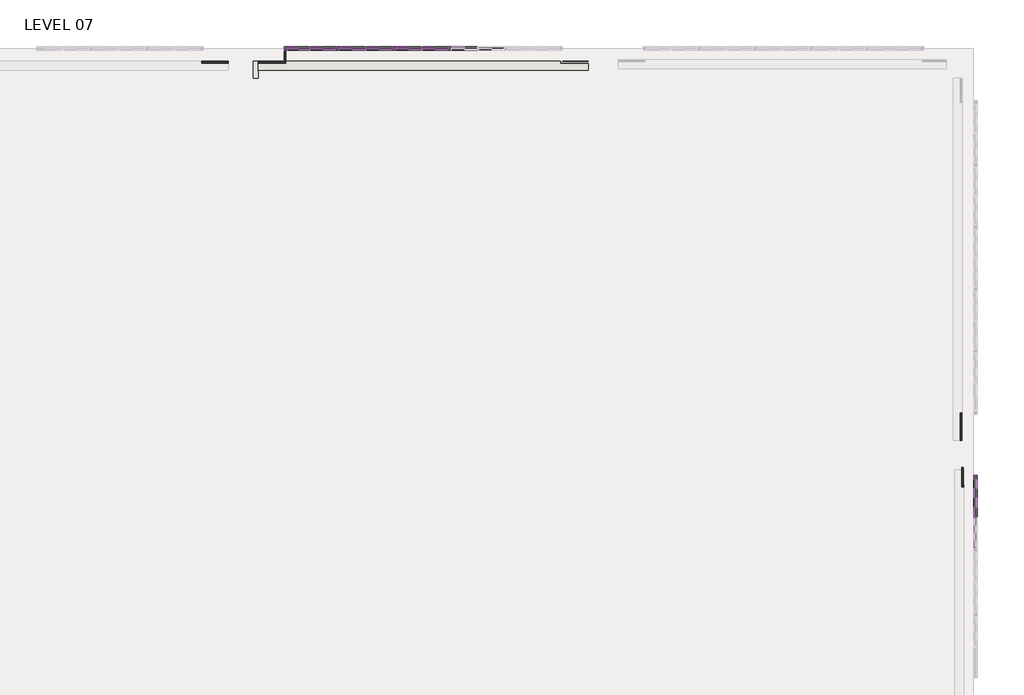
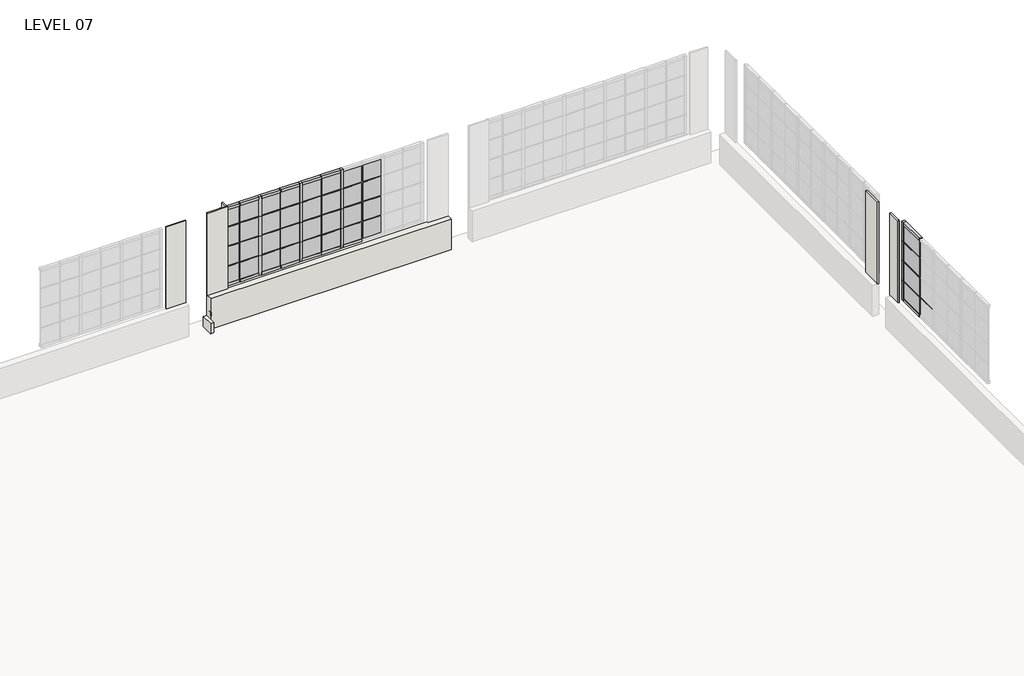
# One storey, part 12 of 15: 73 members, 36 plates, 8 walls.
"""IFC4 building model written with IfcOpenShell, lengths in millimetres."""

from ifc_helpers import new_model, si_unit, frame, origin, place, context, project, spatial, polyline, outline, extrude, faceted_brep, transform, mapped, element, save
from components import member_8b579164, member_7143316a, member_78bb2ef1, member_d9fe2114, member_2883aa03, member_58a7523c, member_9007e3de, member_17eb62f4, member_6e5aab5d, member_bacafba3, member_a6d649dc, system_panel_glazed_44697018, system_panel_glazed_bf1454fd, system_panel_glazed_c0b9dc67, system_panel_glazed_28fcd7fc, system_panel_glazed_604e821d, system_panel_glazed_28924fc1

model = new_model("IFC4")

# Units and contexts
model_context = context("Model", 3, world=origin())
ifc_project = project(units=[si_unit("LENGTHUNIT", "METRE", prefix="MILLI")], contexts=[model_context])

# Site, building, storey
site = spatial("IfcSite", under=ifc_project)
building = spatial("IfcBuilding", under=site)
storey = spatial("IfcBuildingStorey", under=building, Name="LEVEL 07", Elevation=20802.6)

# Members
placement = place(None, origin())
member_shape = member_8b579164(model_context)
element("IfcMember", 1, ObjectType="Rectangular Mullion : 1\" x 1\" - Butt Joint", at=placement, inside=storey, context=model_context, shape_type="MappedRepresentation", body=[
    mapped(member_shape, transform((-14064.4571519, -412.75, 23342.6), x_axis=(0.0, 0.0, 1.0), y_axis=(0.0, -1.0, 0.0), z_axis=(1.0, 0.0, 0.0))),
])
element("IfcMember", 2, ObjectType="Rectangular Mullion : 1\" x 1\" - Butt Joint", at=placement, inside=storey, context=model_context, shape_type="MappedRepresentation", body=[
    mapped(member_shape, transform((-14064.4571519, -412.75, 22758.4), x_axis=(0.0, 0.0, 1.0), y_axis=(0.0, -1.0, 0.0), z_axis=(1.0, 0.0, 0.0))),
])
element("IfcMember", 3, ObjectType="Rectangular Mullion : 1\" x 1\" - Butt Joint", at=placement, inside=storey, context=model_context, shape_type="MappedRepresentation", body=[
    mapped(member_shape, transform((-14064.4571519, -412.75, 22174.2), x_axis=(0.0, 0.0, 1.0), y_axis=(0.0, -1.0, 0.0), z_axis=(1.0, 0.0, 0.0))),
])
member_2_shape = member_7143316a(model_context)
element("IfcMember", 4, ObjectType="Rectangular Mullion : 1\" x 1\" - Butt Joint", at=placement, inside=storey, context=model_context, shape_type="MappedRepresentation", body=[
    mapped(member_2_shape, transform((-445.6849596, -9211.1863171, 23342.6), x_axis=(0.0, 0.0, 1.0), y_axis=(1.0, 0.0, 0.0), z_axis=(0.0, 1.0, 0.0))),
])
element("IfcMember", 5, ObjectType="Rectangular Mullion : 1\" x 1\" - Butt Joint", at=placement, inside=storey, context=model_context, shape_type="MappedRepresentation", body=[
    mapped(member_2_shape, transform((-445.6849596, -9211.1863171, 22758.4), x_axis=(0.0, 0.0, 1.0), y_axis=(1.0, 0.0, 0.0), z_axis=(0.0, 1.0, 0.0))),
])
element("IfcMember", 6, ObjectType="Rectangular Mullion : 1\" x 1\" - Butt Joint", at=placement, inside=storey, context=model_context, shape_type="MappedRepresentation", body=[
    mapped(member_2_shape, transform((-445.6849596, -9211.1863171, 22174.2), x_axis=(0.0, 0.0, 1.0), y_axis=(1.0, 0.0, 0.0), z_axis=(0.0, 1.0, 0.0))),
])
member_3_shape = member_78bb2ef1(model_context)
element("IfcMember", 7, ObjectType="Rectangular Mullion : 1\" x 1\" - Butt Joint", at=placement, inside=storey, context=model_context, shape_type="MappedRepresentation", body=[
    mapped(member_3_shape, transform((-445.6849596, -9999.1456956, 23342.6), x_axis=(0.0, 1.0, 0.0), y_axis=(1.0, 0.0, 0.0), z_axis=(0.0, 0.0, -1.0))),
])
element("IfcMember", 8, ObjectType="Rectangular Mullion : 1\" x 1\" - Butt Joint", at=placement, inside=storey, context=model_context, shape_type="MappedRepresentation", body=[
    mapped(member_3_shape, transform((-445.6849596, -9999.1456956, 22174.2), x_axis=(0.0, 1.0, 0.0), y_axis=(1.0, 0.0, 0.0), z_axis=(0.0, 0.0, -1.0))),
])
element("IfcMember", 9, ObjectType="Rectangular Mullion : 1\" x 1\" - Butt Joint", at=placement, inside=storey, context=model_context, shape_type="MappedRepresentation", body=[
    mapped(member_3_shape, transform((-445.6849596, -9999.1456956, 22758.4), x_axis=(0.0, 1.0, 0.0), y_axis=(1.0, 0.0, 0.0), z_axis=(0.0, 0.0, -1.0))),
])
element("IfcMember", 10, ObjectType="Rectangular Mullion : 1\" x 1\" - Butt Joint", at=placement, inside=storey, context=model_context, shape_type="MappedRepresentation", body=[
    mapped(member_3_shape, transform((-445.6849596, -9999.1456956, 21590.0), x_axis=(0.0, 1.0, 0.0), y_axis=(1.0, 0.0, 0.0), z_axis=(0.0, 0.0, -1.0))),
])
member_4_shape = member_d9fe2114(model_context)
element("IfcMember", 11, ObjectType="Rectangular Mullion : 1\" x 1\" - Butt Joint", at=placement, inside=storey, context=model_context, shape_type="MappedRepresentation", body=[
    mapped(member_4_shape, transform((-13515.8171519, -412.75, 23342.6), x_axis=(0.0, 0.0, 1.0), y_axis=(0.0, -1.0, 0.0), z_axis=(1.0, 0.0, 0.0))),
])
element("IfcMember", 12, ObjectType="Rectangular Mullion : 1\" x 1\" - Butt Joint", at=placement, inside=storey, context=model_context, shape_type="MappedRepresentation", body=[
    mapped(member_4_shape, transform((-12367.7371519, -412.75, 23342.6), x_axis=(0.0, 0.0, 1.0), y_axis=(0.0, -1.0, 0.0), z_axis=(1.0, 0.0, 0.0))),
])
element("IfcMember", 13, ObjectType="Rectangular Mullion : 1\" x 1\" - Butt Joint", at=placement, inside=storey, context=model_context, shape_type="MappedRepresentation", body=[
    mapped(member_4_shape, transform((-11219.6571519, -412.75, 23342.6), x_axis=(0.0, 0.0, 1.0), y_axis=(0.0, -1.0, 0.0), z_axis=(1.0, 0.0, 0.0))),
])
element("IfcMember", 14, ObjectType="Rectangular Mullion : 1\" x 1\" - Butt Joint", at=placement, inside=storey, context=model_context, shape_type="MappedRepresentation", body=[
    mapped(member_4_shape, transform((-12916.3771519, -412.75, 23342.6), x_axis=(0.0, 0.0, 1.0), y_axis=(0.0, -1.0, 0.0), z_axis=(1.0, 0.0, 0.0))),
])
element("IfcMember", 15, ObjectType="Rectangular Mullion : 1\" x 1\" - Butt Joint", at=placement, inside=storey, context=model_context, shape_type="MappedRepresentation", body=[
    mapped(member_4_shape, transform((-11768.2971519, -412.75, 23342.6), x_axis=(0.0, 0.0, 1.0), y_axis=(0.0, -1.0, 0.0), z_axis=(1.0, 0.0, 0.0))),
])
element("IfcMember", 16, ObjectType="Rectangular Mullion : 1\" x 1\" - Butt Joint", at=placement, inside=storey, context=model_context, shape_type="MappedRepresentation", body=[
    mapped(member_4_shape, transform((-13515.8171519, -412.75, 22758.4), x_axis=(0.0, 0.0, 1.0), y_axis=(0.0, -1.0, 0.0), z_axis=(1.0, 0.0, 0.0))),
])
element("IfcMember", 17, ObjectType="Rectangular Mullion : 1\" x 1\" - Butt Joint", at=placement, inside=storey, context=model_context, shape_type="MappedRepresentation", body=[
    mapped(member_4_shape, transform((-12367.7371519, -412.75, 22758.4), x_axis=(0.0, 0.0, 1.0), y_axis=(0.0, -1.0, 0.0), z_axis=(1.0, 0.0, 0.0))),
])
element("IfcMember", 18, ObjectType="Rectangular Mullion : 1\" x 1\" - Butt Joint", at=placement, inside=storey, context=model_context, shape_type="MappedRepresentation", body=[
    mapped(member_4_shape, transform((-11219.6571519, -412.75, 22758.4), x_axis=(0.0, 0.0, 1.0), y_axis=(0.0, -1.0, 0.0), z_axis=(1.0, 0.0, 0.0))),
])
element("IfcMember", 19, ObjectType="Rectangular Mullion : 1\" x 1\" - Butt Joint", at=placement, inside=storey, context=model_context, shape_type="MappedRepresentation", body=[
    mapped(member_4_shape, transform((-12916.3771519, -412.75, 22758.4), x_axis=(0.0, 0.0, 1.0), y_axis=(0.0, -1.0, 0.0), z_axis=(1.0, 0.0, 0.0))),
])
element("IfcMember", 20, ObjectType="Rectangular Mullion : 1\" x 1\" - Butt Joint", at=placement, inside=storey, context=model_context, shape_type="MappedRepresentation", body=[
    mapped(member_4_shape, transform((-11768.2971519, -412.75, 22758.4), x_axis=(0.0, 0.0, 1.0), y_axis=(0.0, -1.0, 0.0), z_axis=(1.0, 0.0, 0.0))),
])
element("IfcMember", 21, ObjectType="Rectangular Mullion : 1\" x 1\" - Butt Joint", at=placement, inside=storey, context=model_context, shape_type="MappedRepresentation", body=[
    mapped(member_4_shape, transform((-13515.8171519, -412.75, 22174.2), x_axis=(0.0, 0.0, 1.0), y_axis=(0.0, -1.0, 0.0), z_axis=(1.0, 0.0, 0.0))),
])
element("IfcMember", 22, ObjectType="Rectangular Mullion : 1\" x 1\" - Butt Joint", at=placement, inside=storey, context=model_context, shape_type="MappedRepresentation", body=[
    mapped(member_4_shape, transform((-12367.7371519, -412.75, 22174.2), x_axis=(0.0, 0.0, 1.0), y_axis=(0.0, -1.0, 0.0), z_axis=(1.0, 0.0, 0.0))),
])
element("IfcMember", 23, ObjectType="Rectangular Mullion : 1\" x 1\" - Butt Joint", at=placement, inside=storey, context=model_context, shape_type="MappedRepresentation", body=[
    mapped(member_4_shape, transform((-11219.6571519, -412.75, 22174.2), x_axis=(0.0, 0.0, 1.0), y_axis=(0.0, -1.0, 0.0), z_axis=(1.0, 0.0, 0.0))),
])
element("IfcMember", 24, ObjectType="Rectangular Mullion : 1\" x 1\" - Butt Joint", at=placement, inside=storey, context=model_context, shape_type="MappedRepresentation", body=[
    mapped(member_4_shape, transform((-12916.3771519, -412.75, 22174.2), x_axis=(0.0, 0.0, 1.0), y_axis=(0.0, -1.0, 0.0), z_axis=(1.0, 0.0, 0.0))),
])
element("IfcMember", 25, ObjectType="Rectangular Mullion : 1\" x 1\" - Butt Joint", at=placement, inside=storey, context=model_context, shape_type="MappedRepresentation", body=[
    mapped(member_4_shape, transform((-11768.2971519, -412.75, 22174.2), x_axis=(0.0, 0.0, 1.0), y_axis=(0.0, -1.0, 0.0), z_axis=(1.0, 0.0, 0.0))),
])
element("IfcMember", 26, ObjectType="Rectangular Mullion : 1\" x 1\" - Butt Joint", at=placement, inside=storey, context=model_context, shape_type="MappedRepresentation", body=[
    mapped(member_3_shape, transform((-11755.5971519, -412.75, 23342.6), x_axis=(1.0, 0.0, 0.0), y_axis=(0.0, -1.0, 0.0), z_axis=(0.0, 0.0, -1.0))),
])
element("IfcMember", 27, ObjectType="Rectangular Mullion : 1\" x 1\" - Butt Joint", at=placement, inside=storey, context=model_context, shape_type="MappedRepresentation", body=[
    mapped(member_3_shape, transform((-12903.6771519, -412.75, 23342.6), x_axis=(1.0, 0.0, 0.0), y_axis=(0.0, -1.0, 0.0), z_axis=(0.0, 0.0, -1.0))),
])
element("IfcMember", 28, ObjectType="Rectangular Mullion : 1\" x 1\" - Butt Joint", at=placement, inside=storey, context=model_context, shape_type="MappedRepresentation", body=[
    mapped(member_3_shape, transform((-14051.7571519, -412.75, 23342.6), x_axis=(1.0, 0.0, 0.0), y_axis=(0.0, -1.0, 0.0), z_axis=(0.0, 0.0, -1.0))),
])
element("IfcMember", 29, ObjectType="Rectangular Mullion : 1\" x 1\" - Butt Joint", at=placement, inside=storey, context=model_context, shape_type="MappedRepresentation", body=[
    mapped(member_3_shape, transform((-11755.5971519, -412.75, 22174.2), x_axis=(1.0, 0.0, 0.0), y_axis=(0.0, -1.0, 0.0), z_axis=(0.0, 0.0, -1.0))),
])
element("IfcMember", 30, ObjectType="Rectangular Mullion : 1\" x 1\" - Butt Joint", at=placement, inside=storey, context=model_context, shape_type="MappedRepresentation", body=[
    mapped(member_3_shape, transform((-11755.5971519, -412.75, 22758.4), x_axis=(1.0, 0.0, 0.0), y_axis=(0.0, -1.0, 0.0), z_axis=(0.0, 0.0, -1.0))),
])
element("IfcMember", 31, ObjectType="Rectangular Mullion : 1\" x 1\" - Butt Joint", at=placement, inside=storey, context=model_context, shape_type="MappedRepresentation", body=[
    mapped(member_3_shape, transform((-12903.6771519, -412.75, 22174.2), x_axis=(1.0, 0.0, 0.0), y_axis=(0.0, -1.0, 0.0), z_axis=(0.0, 0.0, -1.0))),
])
element("IfcMember", 32, ObjectType="Rectangular Mullion : 1\" x 1\" - Butt Joint", at=placement, inside=storey, context=model_context, shape_type="MappedRepresentation", body=[
    mapped(member_3_shape, transform((-12903.6771519, -412.75, 22758.4), x_axis=(1.0, 0.0, 0.0), y_axis=(0.0, -1.0, 0.0), z_axis=(0.0, 0.0, -1.0))),
])
element("IfcMember", 33, ObjectType="Rectangular Mullion : 1\" x 1\" - Butt Joint", at=placement, inside=storey, context=model_context, shape_type="MappedRepresentation", body=[
    mapped(member_3_shape, transform((-14051.7571519, -412.75, 22174.2), x_axis=(1.0, 0.0, 0.0), y_axis=(0.0, -1.0, 0.0), z_axis=(0.0, 0.0, -1.0))),
])
element("IfcMember", 34, ObjectType="Rectangular Mullion : 1\" x 1\" - Butt Joint", at=placement, inside=storey, context=model_context, shape_type="MappedRepresentation", body=[
    mapped(member_3_shape, transform((-14051.7571519, -412.75, 22758.4), x_axis=(1.0, 0.0, 0.0), y_axis=(0.0, -1.0, 0.0), z_axis=(0.0, 0.0, -1.0))),
])
element("IfcMember", 35, ObjectType="Rectangular Mullion : 1\" x 1\" - Butt Joint", at=placement, inside=storey, context=model_context, shape_type="MappedRepresentation", body=[
    mapped(member_3_shape, transform((-11755.5971519, -412.75, 21590.0), x_axis=(1.0, 0.0, 0.0), y_axis=(0.0, -1.0, 0.0), z_axis=(0.0, 0.0, -1.0))),
])
element("IfcMember", 36, ObjectType="Rectangular Mullion : 1\" x 1\" - Butt Joint", at=placement, inside=storey, context=model_context, shape_type="MappedRepresentation", body=[
    mapped(member_3_shape, transform((-12903.6771519, -412.75, 21590.0), x_axis=(1.0, 0.0, 0.0), y_axis=(0.0, -1.0, 0.0), z_axis=(0.0, 0.0, -1.0))),
])
element("IfcMember", 37, ObjectType="Rectangular Mullion : 1\" x 1\" - Butt Joint", at=placement, inside=storey, context=model_context, shape_type="MappedRepresentation", body=[
    mapped(member_3_shape, transform((-14051.7571519, -412.75, 21590.0), x_axis=(1.0, 0.0, 0.0), y_axis=(0.0, -1.0, 0.0), z_axis=(0.0, 0.0, -1.0))),
])
member_5_shape = member_2883aa03(model_context)
element("IfcMember", 38, ObjectType="Rectangular Mullion : 1\" x 1\" - Butt Joint", at=placement, inside=storey, context=model_context, shape_type="MappedRepresentation", body=[
    mapped(member_5_shape, transform((-445.6849596, -10011.8456956, 22174.2), x_axis=(0.0, 0.0, 1.0), y_axis=(1.0, 0.0, 0.0), z_axis=(0.0, 1.0, 0.0))),
])
member_6_shape = member_58a7523c(model_context)
element("IfcMember", 39, ObjectType="Rectangular Mullion : 3\" x 3\" Window Jamb", at=placement, inside=storey, context=model_context, shape_type="MappedRepresentation", body=[
    mapped(member_6_shape, transform((-14064.4571519, -412.75, 23926.8), x_axis=(0.0, 0.0, 1.0), y_axis=(0.0, -1.0, 0.0), z_axis=(1.0, 0.0, 0.0))),
])
element("IfcMember", 40, ObjectType="Rectangular Mullion : 3\" x 3\" Window Jamb", at=placement, inside=storey, context=model_context, shape_type="MappedRepresentation", body=[
    mapped(member_6_shape, transform((-14498.7971519, -412.75, 21590.0), x_axis=(0.0, 0.0, -1.0), y_axis=(0.0, -1.0, 0.0), z_axis=(-1.0, 0.0, 0.0))),
])
member_7_shape = member_9007e3de(model_context)
element("IfcMember", 41, ObjectType="Rectangular Mullion : 3\" x 3\" Window Jamb", at=placement, inside=storey, context=model_context, shape_type="MappedRepresentation", body=[
    mapped(member_7_shape, transform((-445.6849596, -9211.1863171, 23926.8), x_axis=(0.0, 0.0, 1.0), y_axis=(1.0, 0.0, 0.0), z_axis=(0.0, 1.0, 0.0))),
])
element("IfcMember", 42, ObjectType="Rectangular Mullion : 3\" x 3\" Window Jamb", at=placement, inside=storey, context=model_context, shape_type="MappedRepresentation", body=[
    mapped(member_7_shape, transform((-445.6849596, -9986.4456956, 21590.0), x_axis=(0.0, 0.0, -1.0), y_axis=(1.0, 0.0, 0.0), z_axis=(0.0, -1.0, 0.0))),
])
member_8_shape = member_17eb62f4(model_context)
element("IfcMember", 43, ObjectType="Rectangular Mullion : 3\" x 3\" Window Jamb", at=placement, inside=storey, context=model_context, shape_type="MappedRepresentation", body=[
    mapped(member_8_shape, transform((-445.6849596, -9134.9863171, 23342.6), x_axis=(0.0, 1.0, 0.0), y_axis=(1.0, 0.0, 0.0), z_axis=(0.0, 0.0, -1.0))),
])
element("IfcMember", 44, ObjectType="Rectangular Mullion : 3\" x 3\" Window Jamb", at=placement, inside=storey, context=model_context, shape_type="MappedRepresentation", body=[
    mapped(member_8_shape, transform((-445.6849596, -9134.9863171, 22174.2), x_axis=(0.0, 1.0, 0.0), y_axis=(1.0, 0.0, 0.0), z_axis=(0.0, 0.0, -1.0))),
])
element("IfcMember", 45, ObjectType="Rectangular Mullion : 3\" x 3\" Window Jamb", at=placement, inside=storey, context=model_context, shape_type="MappedRepresentation", body=[
    mapped(member_8_shape, transform((-445.6849596, -9134.9863171, 22758.4), x_axis=(0.0, 1.0, 0.0), y_axis=(1.0, 0.0, 0.0), z_axis=(0.0, 0.0, -1.0))),
])
element("IfcMember", 46, ObjectType="Rectangular Mullion : 3\" x 3\" Window Jamb", at=placement, inside=storey, context=model_context, shape_type="MappedRepresentation", body=[
    mapped(member_8_shape, transform((-445.6849596, -9134.9863171, 21590.0), x_axis=(0.0, 1.0, 0.0), y_axis=(1.0, 0.0, 0.0), z_axis=(0.0, 0.0, -1.0))),
])
member_9_shape = member_6e5aab5d(model_context)
element("IfcMember", 47, ObjectType="Rectangular Mullion : 3\" x 3\" Window Jamb", at=placement, inside=storey, context=model_context, shape_type="MappedRepresentation", body=[
    mapped(member_9_shape, transform((-12916.3771519, -412.75, 23926.8), x_axis=(0.0, 0.0, 1.0), y_axis=(0.0, -1.0, 0.0), z_axis=(1.0, 0.0, 0.0))),
])
element("IfcMember", 48, ObjectType="Rectangular Mullion : 3\" x 3\" Window Jamb", at=placement, inside=storey, context=model_context, shape_type="MappedRepresentation", body=[
    mapped(member_9_shape, transform((-11768.2971519, -412.75, 23926.8), x_axis=(0.0, 0.0, 1.0), y_axis=(0.0, -1.0, 0.0), z_axis=(1.0, 0.0, 0.0))),
])
element("IfcMember", 49, ObjectType="Rectangular Mullion : 3\" x 3\" Window Jamb", at=placement, inside=storey, context=model_context, shape_type="MappedRepresentation", body=[
    mapped(member_9_shape, transform((-13515.8171519, -412.75, 23926.8), x_axis=(0.0, 0.0, 1.0), y_axis=(0.0, -1.0, 0.0), z_axis=(1.0, 0.0, 0.0))),
])
element("IfcMember", 50, ObjectType="Rectangular Mullion : 3\" x 3\" Window Jamb", at=placement, inside=storey, context=model_context, shape_type="MappedRepresentation", body=[
    mapped(member_9_shape, transform((-12367.7371519, -412.75, 23926.8), x_axis=(0.0, 0.0, 1.0), y_axis=(0.0, -1.0, 0.0), z_axis=(1.0, 0.0, 0.0))),
])
element("IfcMember", 51, ObjectType="Rectangular Mullion : 3\" x 3\" Window Jamb", at=placement, inside=storey, context=model_context, shape_type="MappedRepresentation", body=[
    mapped(member_9_shape, transform((-11219.6571519, -412.75, 23926.8), x_axis=(0.0, 0.0, 1.0), y_axis=(0.0, -1.0, 0.0), z_axis=(1.0, 0.0, 0.0))),
])
element("IfcMember", 52, ObjectType="Rectangular Mullion : 3\" x 3\" Window Jamb", at=placement, inside=storey, context=model_context, shape_type="MappedRepresentation", body=[
    mapped(member_9_shape, transform((-14039.0571519, -412.75, 21590.0), x_axis=(0.0, 0.0, -1.0), y_axis=(0.0, -1.0, 0.0), z_axis=(-1.0, 0.0, 0.0))),
])
element("IfcMember", 53, ObjectType="Rectangular Mullion : 3\" x 3\" Window Jamb", at=placement, inside=storey, context=model_context, shape_type="MappedRepresentation", body=[
    mapped(member_9_shape, transform((-12890.9771519, -412.75, 21590.0), x_axis=(0.0, 0.0, -1.0), y_axis=(0.0, -1.0, 0.0), z_axis=(-1.0, 0.0, 0.0))),
])
element("IfcMember", 54, ObjectType="Rectangular Mullion : 3\" x 3\" Window Jamb", at=placement, inside=storey, context=model_context, shape_type="MappedRepresentation", body=[
    mapped(member_9_shape, transform((-11742.8971519, -412.75, 21590.0), x_axis=(0.0, 0.0, -1.0), y_axis=(0.0, -1.0, 0.0), z_axis=(-1.0, 0.0, 0.0))),
])
element("IfcMember", 55, ObjectType="Rectangular Mullion : 3\" x 3\" Window Jamb", at=placement, inside=storey, context=model_context, shape_type="MappedRepresentation", body=[
    mapped(member_9_shape, transform((-13439.6171519, -412.75, 21590.0), x_axis=(0.0, 0.0, -1.0), y_axis=(0.0, -1.0, 0.0), z_axis=(-1.0, 0.0, 0.0))),
])
element("IfcMember", 56, ObjectType="Rectangular Mullion : 3\" x 3\" Window Jamb", at=placement, inside=storey, context=model_context, shape_type="MappedRepresentation", body=[
    mapped(member_9_shape, transform((-12291.5371519, -412.75, 21590.0), x_axis=(0.0, 0.0, -1.0), y_axis=(0.0, -1.0, 0.0), z_axis=(-1.0, 0.0, 0.0))),
])
element("IfcMember", 57, ObjectType="Rectangular Mullion : 3\" x 3\" Window Jamb", at=placement, inside=storey, context=model_context, shape_type="MappedRepresentation", body=[
    mapped(member_9_shape, transform((-11143.4571519, -412.75, 21590.0), x_axis=(0.0, 0.0, -1.0), y_axis=(0.0, -1.0, 0.0), z_axis=(-1.0, 0.0, 0.0))),
])
member_10_shape = member_bacafba3(model_context)
element("IfcMember", 58, ObjectType="Rectangular Mullion : 3\" x 3\" Window Jamb", at=placement, inside=storey, context=model_context, shape_type="MappedRepresentation", body=[
    mapped(member_10_shape, transform((-11181.5571519, -412.75, 23342.6), x_axis=(1.0, 0.0, 0.0), y_axis=(0.0, -1.0, 0.0), z_axis=(0.0, 0.0, -1.0))),
])
element("IfcMember", 59, ObjectType="Rectangular Mullion : 3\" x 3\" Window Jamb", at=placement, inside=storey, context=model_context, shape_type="MappedRepresentation", body=[
    mapped(member_10_shape, transform((-12329.6371519, -412.75, 23342.6), x_axis=(1.0, 0.0, 0.0), y_axis=(0.0, -1.0, 0.0), z_axis=(0.0, 0.0, -1.0))),
])
element("IfcMember", 60, ObjectType="Rectangular Mullion : 3\" x 3\" Window Jamb", at=placement, inside=storey, context=model_context, shape_type="MappedRepresentation", body=[
    mapped(member_10_shape, transform((-13477.7171519, -412.75, 23342.6), x_axis=(1.0, 0.0, 0.0), y_axis=(0.0, -1.0, 0.0), z_axis=(0.0, 0.0, -1.0))),
])
element("IfcMember", 61, ObjectType="Rectangular Mullion : 3\" x 3\" Window Jamb", at=placement, inside=storey, context=model_context, shape_type="MappedRepresentation", body=[
    mapped(member_10_shape, transform((-11181.5571519, -412.75, 22174.2), x_axis=(1.0, 0.0, 0.0), y_axis=(0.0, -1.0, 0.0), z_axis=(0.0, 0.0, -1.0))),
])
element("IfcMember", 62, ObjectType="Rectangular Mullion : 3\" x 3\" Window Jamb", at=placement, inside=storey, context=model_context, shape_type="MappedRepresentation", body=[
    mapped(member_10_shape, transform((-11181.5571519, -412.75, 22758.4), x_axis=(1.0, 0.0, 0.0), y_axis=(0.0, -1.0, 0.0), z_axis=(0.0, 0.0, -1.0))),
])
element("IfcMember", 63, ObjectType="Rectangular Mullion : 3\" x 3\" Window Jamb", at=placement, inside=storey, context=model_context, shape_type="MappedRepresentation", body=[
    mapped(member_10_shape, transform((-12329.6371519, -412.75, 22174.2), x_axis=(1.0, 0.0, 0.0), y_axis=(0.0, -1.0, 0.0), z_axis=(0.0, 0.0, -1.0))),
])
element("IfcMember", 64, ObjectType="Rectangular Mullion : 3\" x 3\" Window Jamb", at=placement, inside=storey, context=model_context, shape_type="MappedRepresentation", body=[
    mapped(member_10_shape, transform((-12329.6371519, -412.75, 22758.4), x_axis=(1.0, 0.0, 0.0), y_axis=(0.0, -1.0, 0.0), z_axis=(0.0, 0.0, -1.0))),
])
element("IfcMember", 65, ObjectType="Rectangular Mullion : 3\" x 3\" Window Jamb", at=placement, inside=storey, context=model_context, shape_type="MappedRepresentation", body=[
    mapped(member_10_shape, transform((-13477.7171519, -412.75, 22174.2), x_axis=(1.0, 0.0, 0.0), y_axis=(0.0, -1.0, 0.0), z_axis=(0.0, 0.0, -1.0))),
])
element("IfcMember", 66, ObjectType="Rectangular Mullion : 3\" x 3\" Window Jamb", at=placement, inside=storey, context=model_context, shape_type="MappedRepresentation", body=[
    mapped(member_10_shape, transform((-13477.7171519, -412.75, 22758.4), x_axis=(1.0, 0.0, 0.0), y_axis=(0.0, -1.0, 0.0), z_axis=(0.0, 0.0, -1.0))),
])
element("IfcMember", 67, ObjectType="Rectangular Mullion : 3\" x 3\" Window Jamb", at=placement, inside=storey, context=model_context, shape_type="MappedRepresentation", body=[
    mapped(member_10_shape, transform((-11181.5571519, -412.75, 21590.0), x_axis=(1.0, 0.0, 0.0), y_axis=(0.0, -1.0, 0.0), z_axis=(0.0, 0.0, -1.0))),
])
element("IfcMember", 68, ObjectType="Rectangular Mullion : 3\" x 3\" Window Jamb", at=placement, inside=storey, context=model_context, shape_type="MappedRepresentation", body=[
    mapped(member_10_shape, transform((-12329.6371519, -412.75, 21590.0), x_axis=(1.0, 0.0, 0.0), y_axis=(0.0, -1.0, 0.0), z_axis=(0.0, 0.0, -1.0))),
])
element("IfcMember", 69, ObjectType="Rectangular Mullion : 3\" x 3\" Window Jamb", at=placement, inside=storey, context=model_context, shape_type="MappedRepresentation", body=[
    mapped(member_10_shape, transform((-13477.7171519, -412.75, 21590.0), x_axis=(1.0, 0.0, 0.0), y_axis=(0.0, -1.0, 0.0), z_axis=(0.0, 0.0, -1.0))),
])
member_11_shape = member_a6d649dc(model_context)
element("IfcMember", 70, ObjectType="Rectangular Mullion : 3\" x 3\" Window Jamb", at=placement, inside=storey, context=model_context, shape_type="MappedRepresentation", body=[
    mapped(member_11_shape, transform((-14574.9971519, -412.75, 23342.6), x_axis=(-1.0, 0.0, 0.0), y_axis=(0.0, -1.0, 0.0), z_axis=(0.0, 0.0, 1.0))),
])
element("IfcMember", 71, ObjectType="Rectangular Mullion : 3\" x 3\" Window Jamb", at=placement, inside=storey, context=model_context, shape_type="MappedRepresentation", body=[
    mapped(member_11_shape, transform((-14574.9971519, -412.75, 22758.4), x_axis=(-1.0, 0.0, 0.0), y_axis=(0.0, -1.0, 0.0), z_axis=(0.0, 0.0, 1.0))),
])
element("IfcMember", 72, ObjectType="Rectangular Mullion : 3\" x 3\" Window Jamb", at=placement, inside=storey, context=model_context, shape_type="MappedRepresentation", body=[
    mapped(member_11_shape, transform((-14574.9971519, -412.75, 22174.2), x_axis=(-1.0, 0.0, 0.0), y_axis=(0.0, -1.0, 0.0), z_axis=(0.0, 0.0, 1.0))),
])
element("IfcMember", 73, ObjectType="Rectangular Mullion : 3\" x 3\" Window Jamb", at=placement, inside=storey, context=model_context, shape_type="MappedRepresentation", body=[
    mapped(member_11_shape, transform((-14574.9971519, -412.75, 23926.8), x_axis=(-1.0, 0.0, 0.0), y_axis=(0.0, -1.0, 0.0), z_axis=(0.0, 0.0, 1.0))),
])

# Plates
system_panel_glazed_shape = system_panel_glazed_44697018(model_context)
element("IfcPlate", 74, ObjectType="System Panel : Glazed", at=placement, inside=storey, context=model_context, shape_type="MappedRepresentation", body=[
    mapped(system_panel_glazed_shape, transform((-10881.8371519, -412.75, 21666.2), x_axis=(1.0, 0.0, 0.0), y_axis=(0.0, 1.0, 0.0), z_axis=(0.0, 0.0, 1.0))),
])
element("IfcPlate", 75, ObjectType="System Panel : Glazed", at=placement, inside=storey, context=model_context, shape_type="MappedRepresentation", body=[
    mapped(system_panel_glazed_shape, transform((-12029.9171519, -412.75, 21666.2), x_axis=(1.0, 0.0, 0.0), y_axis=(0.0, 1.0, 0.0), z_axis=(0.0, 0.0, 1.0))),
])
element("IfcPlate", 76, ObjectType="System Panel : Glazed", at=placement, inside=storey, context=model_context, shape_type="MappedRepresentation", body=[
    mapped(system_panel_glazed_shape, transform((-13177.9971519, -412.75, 21666.2), x_axis=(1.0, 0.0, 0.0), y_axis=(0.0, 1.0, 0.0), z_axis=(0.0, 0.0, 1.0))),
])
element("IfcPlate", 77, ObjectType="System Panel : Glazed", at=placement, inside=storey, context=model_context, shape_type="MappedRepresentation", body=[
    mapped(system_panel_glazed_shape, transform((-13177.9971519, -412.75, 23355.3), x_axis=(1.0, 0.0, 0.0), y_axis=(0.0, 1.0, 0.0), z_axis=(0.0, 0.0, 1.0))),
])
element("IfcPlate", 78, ObjectType="System Panel : Glazed", at=placement, inside=storey, context=model_context, shape_type="MappedRepresentation", body=[
    mapped(system_panel_glazed_shape, transform((-12029.9171519, -412.75, 23355.3), x_axis=(1.0, 0.0, 0.0), y_axis=(0.0, 1.0, 0.0), z_axis=(0.0, 0.0, 1.0))),
])
element("IfcPlate", 79, ObjectType="System Panel : Glazed", at=placement, inside=storey, context=model_context, shape_type="MappedRepresentation", body=[
    mapped(system_panel_glazed_shape, transform((-10881.8371519, -412.75, 23355.3), x_axis=(1.0, 0.0, 0.0), y_axis=(0.0, 1.0, 0.0), z_axis=(0.0, 0.0, 1.0))),
])
element("IfcPlate", 80, ObjectType="System Panel : Glazed", at=placement, inside=storey, context=model_context, shape_type="MappedRepresentation", body=[
    mapped(system_panel_glazed_shape, transform((-10333.1971519, -412.75, 21666.2), x_axis=(1.0, 0.0, 0.0), y_axis=(0.0, 1.0, 0.0), z_axis=(0.0, 0.0, 1.0))),
])
element("IfcPlate", 81, ObjectType="System Panel : Glazed", at=placement, inside=storey, context=model_context, shape_type="MappedRepresentation", body=[
    mapped(system_panel_glazed_shape, transform((-10333.1971519, -412.75, 23355.3), x_axis=(1.0, 0.0, 0.0), y_axis=(0.0, 1.0, 0.0), z_axis=(0.0, 0.0, 1.0))),
])
element("IfcPlate", 82, ObjectType="System Panel : Glazed", at=placement, inside=storey, context=model_context, shape_type="MappedRepresentation", body=[
    mapped(system_panel_glazed_shape, transform((-11481.2771519, -412.75, 21666.2), x_axis=(1.0, 0.0, 0.0), y_axis=(0.0, 1.0, 0.0), z_axis=(0.0, 0.0, 1.0))),
])
element("IfcPlate", 83, ObjectType="System Panel : Glazed", at=placement, inside=storey, context=model_context, shape_type="MappedRepresentation", body=[
    mapped(system_panel_glazed_shape, transform((-11481.2771519, -412.75, 23355.3), x_axis=(1.0, 0.0, 0.0), y_axis=(0.0, 1.0, 0.0), z_axis=(0.0, 0.0, 1.0))),
])
element("IfcPlate", 84, ObjectType="System Panel : Glazed", at=placement, inside=storey, context=model_context, shape_type="MappedRepresentation", body=[
    mapped(system_panel_glazed_shape, transform((-12629.3571519, -412.75, 21666.2), x_axis=(1.0, 0.0, 0.0), y_axis=(0.0, 1.0, 0.0), z_axis=(0.0, 0.0, 1.0))),
])
element("IfcPlate", 85, ObjectType="System Panel : Glazed", at=placement, inside=storey, context=model_context, shape_type="MappedRepresentation", body=[
    mapped(system_panel_glazed_shape, transform((-12629.3571519, -412.75, 23355.3), x_axis=(1.0, 0.0, 0.0), y_axis=(0.0, 1.0, 0.0), z_axis=(0.0, 0.0, 1.0))),
])
element("IfcPlate", 86, ObjectType="System Panel : Glazed", at=placement, inside=storey, context=model_context, shape_type="MappedRepresentation", body=[
    mapped(system_panel_glazed_shape, transform((-13777.4371519, -412.75, 21666.2), x_axis=(1.0, 0.0, 0.0), y_axis=(0.0, 1.0, 0.0), z_axis=(0.0, 0.0, 1.0))),
])
element("IfcPlate", 87, ObjectType="System Panel : Glazed", at=placement, inside=storey, context=model_context, shape_type="MappedRepresentation", body=[
    mapped(system_panel_glazed_shape, transform((-13777.4371519, -412.75, 23355.3), x_axis=(1.0, 0.0, 0.0), y_axis=(0.0, 1.0, 0.0), z_axis=(0.0, 0.0, 1.0))),
])
system_panel_glazed_2_shape = system_panel_glazed_bf1454fd(model_context)
element("IfcPlate", 88, ObjectType="System Panel : Glazed", at=placement, inside=storey, context=model_context, shape_type="MappedRepresentation", body=[
    mapped(system_panel_glazed_2_shape, transform((-13177.9971519, -412.75, 22771.1), x_axis=(1.0, 0.0, 0.0), y_axis=(0.0, 1.0, 0.0), z_axis=(0.0, 0.0, 1.0))),
])
element("IfcPlate", 89, ObjectType="System Panel : Glazed", at=placement, inside=storey, context=model_context, shape_type="MappedRepresentation", body=[
    mapped(system_panel_glazed_2_shape, transform((-12029.9171519, -412.75, 22771.1), x_axis=(1.0, 0.0, 0.0), y_axis=(0.0, 1.0, 0.0), z_axis=(0.0, 0.0, 1.0))),
])
element("IfcPlate", 90, ObjectType="System Panel : Glazed", at=placement, inside=storey, context=model_context, shape_type="MappedRepresentation", body=[
    mapped(system_panel_glazed_2_shape, transform((-10881.8371519, -412.75, 22771.1), x_axis=(1.0, 0.0, 0.0), y_axis=(0.0, 1.0, 0.0), z_axis=(0.0, 0.0, 1.0))),
])
element("IfcPlate", 91, ObjectType="System Panel : Glazed", at=placement, inside=storey, context=model_context, shape_type="MappedRepresentation", body=[
    mapped(system_panel_glazed_2_shape, transform((-13177.9971519, -412.75, 22186.9), x_axis=(1.0, 0.0, 0.0), y_axis=(0.0, 1.0, 0.0), z_axis=(0.0, 0.0, 1.0))),
])
element("IfcPlate", 92, ObjectType="System Panel : Glazed", at=placement, inside=storey, context=model_context, shape_type="MappedRepresentation", body=[
    mapped(system_panel_glazed_2_shape, transform((-12029.9171519, -412.75, 22186.9), x_axis=(1.0, 0.0, 0.0), y_axis=(0.0, 1.0, 0.0), z_axis=(0.0, 0.0, 1.0))),
])
element("IfcPlate", 93, ObjectType="System Panel : Glazed", at=placement, inside=storey, context=model_context, shape_type="MappedRepresentation", body=[
    mapped(system_panel_glazed_2_shape, transform((-10881.8371519, -412.75, 22186.9), x_axis=(1.0, 0.0, 0.0), y_axis=(0.0, 1.0, 0.0), z_axis=(0.0, 0.0, 1.0))),
])
element("IfcPlate", 94, ObjectType="System Panel : Glazed", at=placement, inside=storey, context=model_context, shape_type="MappedRepresentation", body=[
    mapped(system_panel_glazed_2_shape, transform((-10333.1971519, -412.75, 22186.9), x_axis=(1.0, 0.0, 0.0), y_axis=(0.0, 1.0, 0.0), z_axis=(0.0, 0.0, 1.0))),
])
element("IfcPlate", 95, ObjectType="System Panel : Glazed", at=placement, inside=storey, context=model_context, shape_type="MappedRepresentation", body=[
    mapped(system_panel_glazed_2_shape, transform((-10333.1971519, -412.75, 22771.1), x_axis=(1.0, 0.0, 0.0), y_axis=(0.0, 1.0, 0.0), z_axis=(0.0, 0.0, 1.0))),
])
element("IfcPlate", 96, ObjectType="System Panel : Glazed", at=placement, inside=storey, context=model_context, shape_type="MappedRepresentation", body=[
    mapped(system_panel_glazed_2_shape, transform((-11481.2771519, -412.75, 22186.9), x_axis=(1.0, 0.0, 0.0), y_axis=(0.0, 1.0, 0.0), z_axis=(0.0, 0.0, 1.0))),
])
element("IfcPlate", 97, ObjectType="System Panel : Glazed", at=placement, inside=storey, context=model_context, shape_type="MappedRepresentation", body=[
    mapped(system_panel_glazed_2_shape, transform((-11481.2771519, -412.75, 22771.1), x_axis=(1.0, 0.0, 0.0), y_axis=(0.0, 1.0, 0.0), z_axis=(0.0, 0.0, 1.0))),
])
element("IfcPlate", 98, ObjectType="System Panel : Glazed", at=placement, inside=storey, context=model_context, shape_type="MappedRepresentation", body=[
    mapped(system_panel_glazed_2_shape, transform((-12629.3571519, -412.75, 22186.9), x_axis=(1.0, 0.0, 0.0), y_axis=(0.0, 1.0, 0.0), z_axis=(0.0, 0.0, 1.0))),
])
element("IfcPlate", 99, ObjectType="System Panel : Glazed", at=placement, inside=storey, context=model_context, shape_type="MappedRepresentation", body=[
    mapped(system_panel_glazed_2_shape, transform((-12629.3571519, -412.75, 22771.1), x_axis=(1.0, 0.0, 0.0), y_axis=(0.0, 1.0, 0.0), z_axis=(0.0, 0.0, 1.0))),
])
element("IfcPlate", 100, ObjectType="System Panel : Glazed", at=placement, inside=storey, context=model_context, shape_type="MappedRepresentation", body=[
    mapped(system_panel_glazed_2_shape, transform((-13777.4371519, -412.75, 22186.9), x_axis=(1.0, 0.0, 0.0), y_axis=(0.0, 1.0, 0.0), z_axis=(0.0, 0.0, 1.0))),
])
element("IfcPlate", 101, ObjectType="System Panel : Glazed", at=placement, inside=storey, context=model_context, shape_type="MappedRepresentation", body=[
    mapped(system_panel_glazed_2_shape, transform((-13777.4371519, -412.75, 22771.1), x_axis=(1.0, 0.0, 0.0), y_axis=(0.0, 1.0, 0.0), z_axis=(0.0, 0.0, 1.0))),
])
system_panel_glazed_3_shape = system_panel_glazed_c0b9dc67(model_context)
element("IfcPlate", 102, ObjectType="System Panel : Glazed", at=placement, inside=storey, context=model_context, shape_type="MappedRepresentation", body=[
    mapped(system_panel_glazed_3_shape, transform((-14281.6271519, -412.75, 21666.2), x_axis=(1.0, 0.0, 0.0), y_axis=(0.0, 1.0, 0.0), z_axis=(0.0, 0.0, 1.0))),
])
element("IfcPlate", 103, ObjectType="System Panel : Glazed", at=placement, inside=storey, context=model_context, shape_type="MappedRepresentation", body=[
    mapped(system_panel_glazed_3_shape, transform((-14281.6271519, -412.75, 23355.3), x_axis=(1.0, 0.0, 0.0), y_axis=(0.0, 1.0, 0.0), z_axis=(0.0, 0.0, 1.0))),
])
system_panel_glazed_4_shape = system_panel_glazed_28fcd7fc(model_context)
element("IfcPlate", 104, ObjectType="System Panel : Glazed", at=placement, inside=storey, context=model_context, shape_type="MappedRepresentation", body=[
    mapped(system_panel_glazed_4_shape, transform((-14281.6271519, -412.75, 22771.1), x_axis=(1.0, 0.0, 0.0), y_axis=(0.0, 1.0, 0.0), z_axis=(0.0, 0.0, 1.0))),
])
element("IfcPlate", 105, ObjectType="System Panel : Glazed", at=placement, inside=storey, context=model_context, shape_type="MappedRepresentation", body=[
    mapped(system_panel_glazed_4_shape, transform((-14281.6271519, -412.75, 22186.9), x_axis=(1.0, 0.0, 0.0), y_axis=(0.0, 1.0, 0.0), z_axis=(0.0, 0.0, 1.0))),
])
system_panel_glazed_5_shape = system_panel_glazed_604e821d(model_context)
element("IfcPlate", 106, ObjectType="System Panel : Glazed", at=placement, inside=storey, context=model_context, shape_type="MappedRepresentation", body=[
    mapped(system_panel_glazed_5_shape, transform((-445.6849596, -9598.8160063, 21666.2), x_axis=(0.0, 1.0, 0.0), y_axis=(-1.0, 0.0, 0.0), z_axis=(0.0, 0.0, 1.0))),
])
element("IfcPlate", 107, ObjectType="System Panel : Glazed", at=placement, inside=storey, context=model_context, shape_type="MappedRepresentation", body=[
    mapped(system_panel_glazed_5_shape, transform((-445.6849596, -9598.8160063, 23355.3), x_axis=(0.0, 1.0, 0.0), y_axis=(-1.0, 0.0, 0.0), z_axis=(0.0, 0.0, 1.0))),
])
system_panel_glazed_6_shape = system_panel_glazed_28924fc1(model_context)
element("IfcPlate", 108, ObjectType="System Panel : Glazed", at=placement, inside=storey, context=model_context, shape_type="MappedRepresentation", body=[
    mapped(system_panel_glazed_6_shape, transform((-445.6849596, -9598.8160063, 22186.9), x_axis=(0.0, 1.0, 0.0), y_axis=(-1.0, 0.0, 0.0), z_axis=(0.0, 0.0, 1.0))),
])
element("IfcPlate", 109, ObjectType="System Panel : Glazed", at=placement, inside=storey, context=model_context, shape_type="MappedRepresentation", body=[
    mapped(system_panel_glazed_6_shape, transform((-445.6849596, -9598.8160063, 22771.1), x_axis=(0.0, 1.0, 0.0), y_axis=(-1.0, 0.0, 0.0), z_axis=(0.0, 0.0, 1.0))),
])

# Walls
element("IfcWall", 110, ObjectType="Partition A2_", at=placement, inside=storey, context=model_context, shape_type="Brep", body=[
    faceted_brep([(-15203.0849596, -663.575, 20802.6), (-15203.0849596, -1012.825, 20802.6), (-15203.0849596, -1012.825, 21107.4), (-15203.0849596, -663.575, 21107.4), (-15107.8349596, -663.575, 20802.6), (-15107.8349596, -663.575, 21107.4), (-15107.8349596, -1012.825, 21107.4), (-15107.8349596, -1012.825, 20802.6), (-15107.8349596, -847.725, 20802.6)], [[[0, 1, 2, 3]], [[4, 5, 6, 7, 8]], [[1, 0, 4, 8, 7]], [[2, 1, 7, 6]], [[3, 2, 6, 5]], [[0, 3, 5, 4]]]),
])
element("IfcWall", 111, ObjectType="Partition A6_", at=placement, inside=storey, context=model_context, shape_type="Brep", body=[
    faceted_brep([(-8352.0721136, -663.575, 20802.6), (-15107.8349596, -663.575, 20802.6), (-15107.8349596, -663.575, 21107.4), (-15107.8349596, -663.575, 21717.0), (-8352.0721136, -663.575, 21717.0), (-8352.0721136, -847.725, 20802.6), (-8352.0721136, -847.725, 21717.0), (-15107.8349596, -847.725, 21717.0), (-15107.8349596, -847.725, 20802.6)], [[[0, 1, 2, 3, 4]], [[5, 6, 7, 8]], [[1, 0, 5, 8]], [[4, 3, 7, 6]], [[0, 4, 6, 5]], [[3, 2, 1, 8, 7]]]),
])
element("IfcWall", 112, ObjectType="Partition F0_", at=placement, inside=storey, context=model_context, shape_type="Brep", body=[
    faceted_brep([(-685.3974596, -9370.0083946, 21717.0), (-685.3974596, -9335.0833946, 21717.0), (-685.3974596, -8980.9988171, 21717.0), (-685.3974596, -8980.9988171, 24155.4), (-685.3974596, -9335.0833946, 24155.4), (-685.3974596, -9370.0083946, 24155.4), (-720.3224596, -9370.0083946, 21717.0), (-720.3224596, -9370.0083946, 24155.4), (-720.3224596, -8980.9988171, 24155.4), (-720.3224596, -8980.9988171, 21717.0)], [[[0, 1, 2, 3, 4, 5]], [[6, 7, 8, 9]], [[2, 1, 0, 6, 9]], [[3, 2, 9, 8]], [[5, 4, 3, 8, 7]], [[0, 5, 7, 6]]]),
])
element("IfcWall", 113, ObjectType="Partition F0_", at=placement, inside=storey, context=model_context, shape_type="Brep", body=[
    faceted_brep([(-713.9724596, -8425.3738171, 21717.0), (-713.9724596, -7891.9738171, 21717.0), (-713.9724596, -7857.0488171, 21717.0), (-713.9724596, -7857.0488171, 24155.4), (-713.9724596, -7891.9738171, 24155.4), (-713.9724596, -8425.3738171, 24155.4), (-748.8974596, -8425.3738171, 21717.0), (-748.8974596, -8425.3738171, 24155.4), (-748.8974596, -7857.0488171, 24155.4), (-748.8974596, -7857.0488171, 21717.0)], [[[0, 1, 2, 3, 4, 5]], [[6, 7, 8, 9]], [[2, 1, 0, 6, 9]], [[5, 4, 3, 8, 7]], [[0, 5, 7, 6]], [[3, 2, 9, 8]]]),
])
element("IfcWall", 114, ObjectType="Partition F0_", at=placement, inside=storey, context=model_context, shape_type="Brep", body=[
    faceted_brep([(-14540.0721519, -663.575, 21717.0), (-14574.9971519, -663.575, 21717.0), (-15107.8349596, -663.575, 21717.0), (-15107.8349596, -663.575, 24155.4), (-14574.9971519, -663.575, 24155.4), (-14540.0721519, -663.575, 24155.4), (-14540.0721519, -698.5, 21717.0), (-14540.0721519, -698.5, 24155.4), (-15107.8349596, -698.5, 24155.4), (-15107.8349596, -698.5, 21717.0)], [[[0, 1, 2, 3, 4, 5]], [[6, 7, 8, 9]], [[2, 1, 0, 6, 9]], [[3, 2, 9, 8]], [[5, 4, 3, 8, 7]], [[0, 5, 7, 6]]]),
])
element("IfcWall", 115, ObjectType="Partition F0_", at=placement, inside=storey, context=model_context, shape_type="SweptSolid", body=[
    extrude(outline(polyline([(-16260.9221519, -663.575), (-15717.4349596, -663.575), (-15717.4349596, -698.5), (-16260.9221519, -698.5), (-16260.9221519, -663.575)])), frame((0.0, 0.0, 21717.0), z_axis=(0.0, 0.0, 1.0), x_axis=(1.0, 0.0, 0.0)), (0.0, 0.0, 1.0), 2438.4),
])
element("IfcWall", 116, ObjectType="Partition F0_", at=placement, inside=storey, context=model_context, shape_type="SweptSolid", body=[
    extrude(outline(polyline([(-14574.9971519, -663.575), (-14574.9971519, -463.55), (-14540.0721519, -463.55), (-14540.0721519, -663.575), (-14574.9971519, -663.575)])), frame((0.0, 0.0, 21717.0), z_axis=(0.0, 0.0, 1.0), x_axis=(1.0, 0.0, 0.0)), (0.0, 0.0, 1.0), 2438.4),
])
element("IfcWall", 117, ObjectType="Partition F0_", at=placement, inside=storey, context=model_context, shape_type="SweptSolid", body=[
    extrude(outline(polyline([(-685.3974596, -9335.0833946), (-677.4599596, -9335.0833946), (-677.4599596, -9370.0083946), (-685.3974596, -9370.0083946), (-685.3974596, -9335.0833946)])), frame((0.0, 0.0, 21717.0), z_axis=(0.0, 0.0, 1.0), x_axis=(1.0, 0.0, 0.0)), (0.0, 0.0, 1.0), 2438.4),
])

save(model, "model.ifc")
